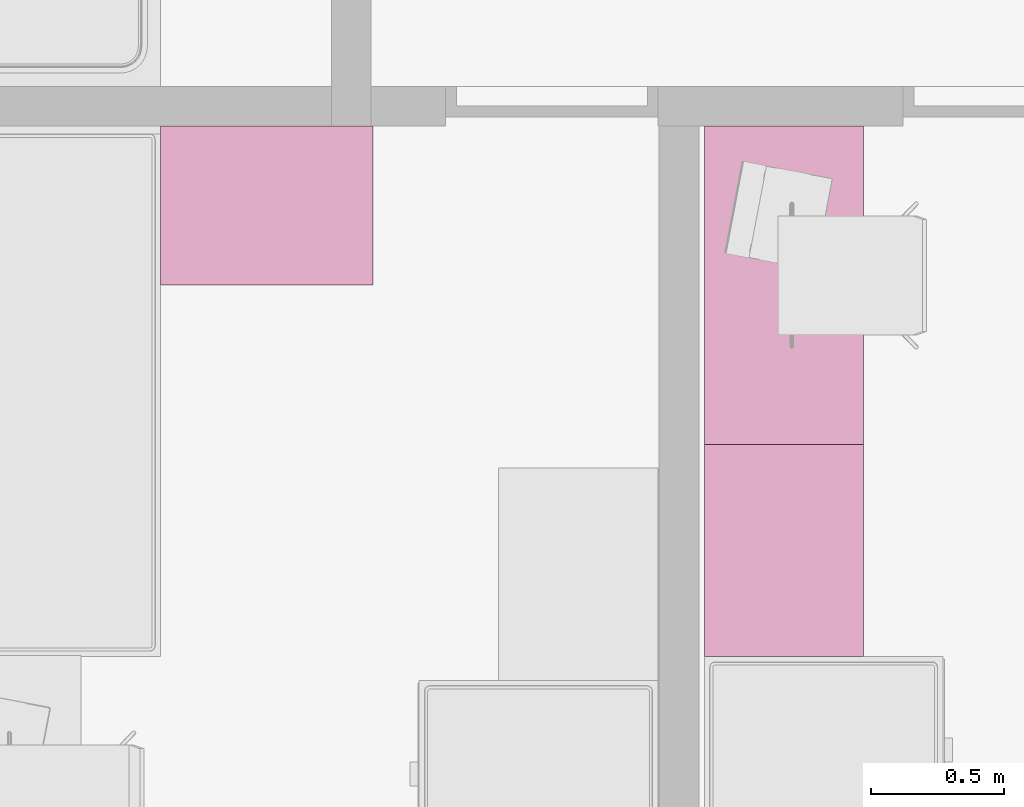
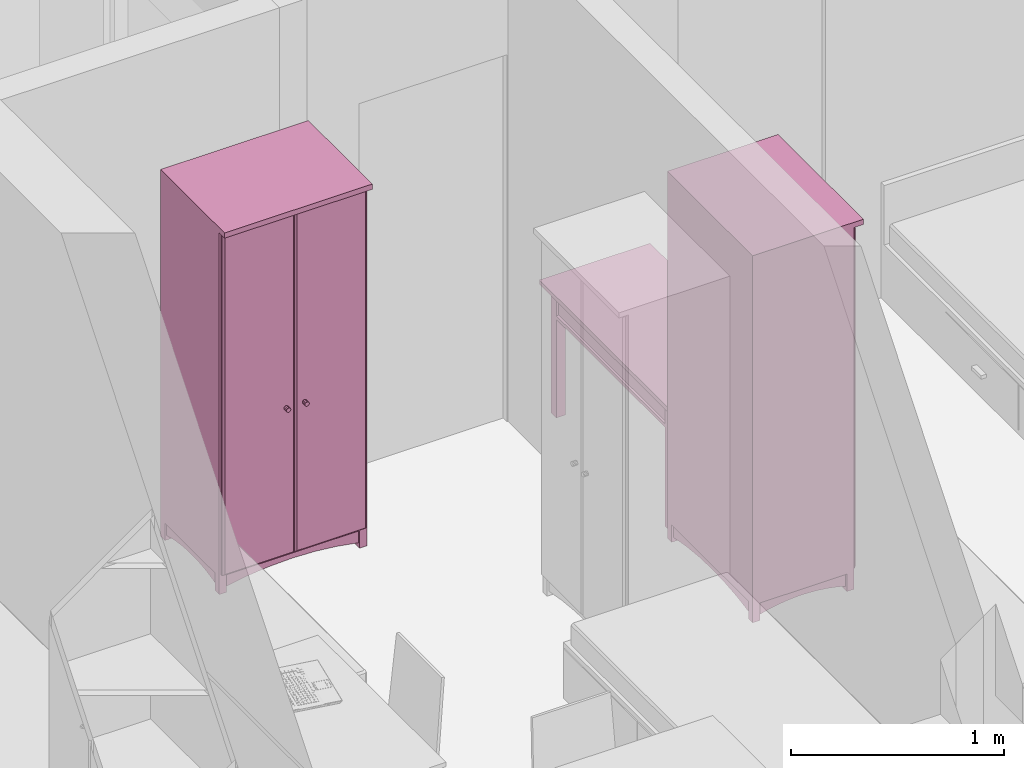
# One storey, part 126 of 165: 3 furnishings.
"""IFC2X3 building model written with IfcOpenShell, lengths in millimetres."""

import ifcopenshell
import ifcopenshell.guid

model = None  # the IFC model being written
_history = None  # IfcOwnerHistory: only IFC2X3 demands one
_inside = {}  # id of a spatial element -> (the spatial element, [elements in it])
_under = {}  # id of a project, library or spatial element -> (it, [spatial elements below it])
_declared = {}  # id of a project -> (the project, [libraries it declares])
_typed = {}  # id of a type object -> (the type object, [elements of that type])
_made_of = {}  # id of a material, layer set ... -> (it, [elements and type objects made of it])


def new_model(schema):
    """Start an empty IFC model of exactly this schema.

    Asked for "IFC4X3", IfcOpenShell would pick the latest addendum, in which some entities
    have other attributes; the version numbers below select the first issue.
    IFC2X3 requires an IfcOwnerHistory on every rooted entity: one is made here for all.
    """
    global model, _history
    if schema == "IFC4X3":
        model = ifcopenshell.file(schema_version=(4, 3, 0, 0))
    else:
        model = ifcopenshell.file(schema=schema)
    _inside.clear()
    _under.clear()
    _declared.clear()
    _typed.clear()
    _made_of.clear()
    _history = None
    if model.schema == "IFC2X3":
        org = make("IfcOrganization", Name="unknown")
        user = make(
            "IfcPersonAndOrganization",
            ThePerson=make("IfcPerson", FamilyName="unknown"),
            TheOrganization=org,
        )
        app = make(
            "IfcApplication",
            ApplicationDeveloper=org,
            Version="unknown",
            ApplicationFullName="unknown",
            ApplicationIdentifier="unknown",
        )
        _history = make(
            "IfcOwnerHistory",
            OwningUser=user,
            OwningApplication=app,
            ChangeAction="ADDED",
            CreationDate=0,
        )
    return model


def make(cls, **values):
    """One entity of the class cls with the attributes given. An attribute that is None is left unset."""
    return model.create_entity(
        cls, **{name: value for name, value in values.items() if value is not None}
    )


def entity(cls, *values):
    """Any entity or typed value of the class cls, its attributes in the order of the schema. None: left unset."""
    e = model.create_entity(cls)
    for i, value in enumerate(values):
        if value is not None:
            e[i] = value
    return e


def rooted(cls, **values):
    """An entity with a GlobalId (a new one), such as an element, a storey or a relation."""
    return make(cls, GlobalId=ifcopenshell.guid.new(), OwnerHistory=_history, **values)


def si_unit(unit_type, name, prefix=None):
    """IfcSIUnit, for example si_unit("LENGTHUNIT", "METRE", prefix="MILLI")."""
    return make("IfcSIUnit", UnitType=unit_type, Prefix=prefix, Name=name)


def converted_unit(unit_type, name, factor, base, dimensions=None, offset=None):
    """IfcConversionBasedUnit, such as the inch: factor (a typed value) times the base unit."""
    return make(
        "IfcConversionBasedUnit"
        if offset is None
        else "IfcConversionBasedUnitWithOffset",
        ConversionOffset=offset,
        Dimensions=None
        if dimensions is None
        else entity("IfcDimensionalExponents", *dimensions),
        UnitType=unit_type,
        Name=name,
        ConversionFactor=make(
            "IfcMeasureWithUnit", ValueComponent=factor, UnitComponent=base
        ),
    )


def money_unit(currency):
    """IfcMonetaryUnit."""
    return make("IfcMonetaryUnit", Currency=currency)


def assignment(units):
    """IfcUnitAssignment: the units of a project."""
    return None if units is None else make("IfcUnitAssignment", Units=units)


def point(xyz):
    """IfcCartesianPoint."""
    return None if xyz is None else make("IfcCartesianPoint", Coordinates=xyz)


def direction(xyz):
    """IfcDirection."""
    return None if xyz is None else make("IfcDirection", DirectionRatios=xyz)


def frame(location, z_axis=None, x_axis=None):
    """IfcAxis2Placement3D, a coordinate frame: its origin and axes. An axis left out is left unset."""
    return make(
        "IfcAxis2Placement3D",
        Location=point(location),
        Axis=direction(z_axis),
        RefDirection=direction(x_axis),
    )


def origin_with_axes():
    """The frame at (0, 0, 0) with the z axis (0, 0, 1) and the x axis (1, 0, 0) written out."""
    return frame((0.0, 0.0, 0.0), z_axis=(0.0, 0.0, 1.0), x_axis=(1.0, 0.0, 0.0))


def place(relative_to, where):
    """IfcLocalPlacement: puts the frame where relative to a parent placement (None: the world)."""
    return make(
        "IfcLocalPlacement", PlacementRelTo=relative_to, RelativePlacement=where
    )


def context(
    kind, dimensions, precision=None, world=None, true_north=None, identifier=None
):
    """IfcGeometricRepresentationContext, for example the 3D "Model" context."""
    return make(
        "IfcGeometricRepresentationContext",
        ContextIdentifier=identifier,
        ContextType=kind,
        CoordinateSpaceDimension=dimensions,
        Precision=precision,
        WorldCoordinateSystem=world,
        TrueNorth=true_north,
    )


def subcontext(parent, identifier, kind, view, scale=None):
    """IfcGeometricRepresentationSubContext, for example "Body" below "Model"."""
    return make(
        "IfcGeometricRepresentationSubContext",
        ContextIdentifier=identifier,
        ContextType=kind,
        ParentContext=parent,
        TargetScale=scale,
        TargetView=view,
    )


def project(units=None, contexts=None):
    """IfcProject with its units and contexts."""
    return rooted(
        "IfcProject",
        Name="project",
        RepresentationContexts=contexts,
        UnitsInContext=assignment(units),
    )


def spatial(cls, under=None, at=None, **own):
    """A site, building, storey or space (cls), placed at a placement, below another one or the project."""
    s = rooted(cls, ObjectPlacement=at, **own)
    if under is not None:
        _under.setdefault(under.id(), (under, []))[1].append(s)
    return s


def faces_of(points, faces, orient=None, outer=None):
    """IfcFace entities. A face is a list of loops; a loop is a list of indices into points, from 0.

    orient and outer hold one flag for each loop. By default every Orientation is true, the
    first loop of a face is its IfcFaceOuterBound and the others are IfcFaceBound.
    """
    made = []
    for i, loops in enumerate(faces):
        bounds = []
        for j, loop in enumerate(loops):
            is_outer = j == 0 if outer is None else outer[i][j]
            bounds.append(
                make(
                    "IfcFaceOuterBound" if is_outer else "IfcFaceBound",
                    Bound=make("IfcPolyLoop", Polygon=[points[k] for k in loop]),
                    Orientation=True if orient is None else orient[i][j],
                )
            )
        made.append(make("IfcFace", Bounds=bounds))
    return made


def faceted_brep(points, faces, orient=None, outer=None, voids=None):
    """IfcFacetedBrep: a solid bounded by flat faces; with voids (closed shells), ...WithVoids."""
    shared = [point(p) for p in points]
    hull = make("IfcClosedShell", CfsFaces=faces_of(shared, faces, orient, outer))
    if voids is None:
        return make("IfcFacetedBrep", Outer=hull)
    return make(
        "IfcFacetedBrepWithVoids",
        Outer=hull,
        Voids=[
            make(cls, CfsFaces=faces_of(shared, fs, o, b)) for cls, fs, o, b in voids
        ],
    )


def shape(context_of_items, identifier, shape_type, items):
    """IfcShapeRepresentation: the items that make up one representation, for example the "Body"."""
    return make(
        "IfcShapeRepresentation",
        ContextOfItems=context_of_items,
        RepresentationIdentifier=identifier,
        RepresentationType=shape_type,
        Items=items,
    )


def source(mapping_origin, context_of_items, identifier, shape_type, items):
    """IfcRepresentationMap: a shape defined once, which mapped items show again and again."""
    return make(
        "IfcRepresentationMap",
        MappingOrigin=mapping_origin,
        MappedRepresentation=shape(context_of_items, identifier, shape_type, items),
    )


def transform(
    local_origin,
    x_axis=None,
    y_axis=None,
    z_axis=None,
    scale=None,
    scale2=None,
    scale3=None,
    uniform=True,
):
    """IfcCartesianTransformationOperator3D, or its non-uniform kind. x_axis, y_axis, z_axis: its Axis1, 2, 3."""
    if uniform:
        return make(
            "IfcCartesianTransformationOperator3D",
            Axis1=direction(x_axis),
            Axis2=direction(y_axis),
            LocalOrigin=point(local_origin),
            Scale=scale,
            Axis3=direction(z_axis),
        )
    return make(
        "IfcCartesianTransformationOperator3DnonUniform",
        Axis1=direction(x_axis),
        Axis2=direction(y_axis),
        LocalOrigin=point(local_origin),
        Scale=scale,
        Axis3=direction(z_axis),
        Scale2=scale2,
        Scale3=scale3,
    )


def mapped(mapping_source, mapping_target):
    """IfcMappedItem: shows the shape of a source again, moved by a transform."""
    return make(
        "IfcMappedItem", MappingSource=mapping_source, MappingTarget=mapping_target
    )


def material(Name=None, Category=None):
    """IfcMaterial."""
    return make("IfcMaterial", Name=Name, Category=Category)


def material_list(materials):
    """IfcMaterialList."""
    return make("IfcMaterialList", Materials=materials)


def made_of(thing, what):
    """Note that an element or type object is made of a material, layer set ...; save() writes the relation."""
    if what is not None:
        _made_of.setdefault(what.id(), (what, []))[1].append(thing)
    return thing


def type_object(cls, material=None, **own):
    """A type object (cls), such as IfcWallType, which elements share."""
    return made_of(rooted(cls, **own), material)


def element(
    cls,
    number,
    at=None,
    inside=None,
    cuts=None,
    type_object=None,
    material=None,
    context=None,
    identifier="Body",
    shape_type=None,
    held_by="IfcProductDefinitionShape",
    body=None,
    shapes=None,
    **own,
):
    """One element of the class cls, such as IfcWall. Its Tag is "e" and its number.

    at: its placement. inside: the storey or other place that contains it. cuts: it is an
    opening in that element (IfcRelVoidsElement). A single representation is given by context,
    identifier, shape_type and body (its items); several are given by shapes. held_by: the class
    of the entity that holds the representations. save() writes the other relations.
    """
    e = rooted(cls, Tag="e%d" % number, ObjectPlacement=at, **own)
    if body is not None:
        shapes = [shape(context, identifier, shape_type, body)]
    if shapes is not None:
        e.Representation = make(held_by, Representations=shapes)
    if inside is not None:
        _inside.setdefault(inside.id(), (inside, []))[1].append(e)
    if cuts is not None:
        rooted(
            "IfcRelVoidsElement", RelatingBuildingElement=cuts, RelatedOpeningElement=e
        )
    if type_object is not None:
        _typed.setdefault(type_object.id(), (type_object, []))[1].append(e)
    return made_of(e, material)


def aggregate(whole, parts):
    """IfcRelAggregates: a whole, such as a stair, and the parts it consists of."""
    return rooted("IfcRelAggregates", RelatingObject=whole, RelatedObjects=parts)


def save(model, path):
    """Write the relations noted so far, then the file.

    IfcRelAggregates (storeys below a building ...), IfcRelContainedInSpatialStructure (elements
    in a storey), IfcRelDefinesByType, IfcRelAssociatesMaterial and IfcRelDeclares: one each for
    every whole, place, type object, material and project.
    """
    for whole, parts in _under.values():
        aggregate(whole, parts)
    for where, things in _inside.values():
        rooted(
            "IfcRelContainedInSpatialStructure",
            RelatedElements=things,
            RelatingStructure=where,
        )
    for kind, things in _typed.values():
        rooted("IfcRelDefinesByType", RelatedObjects=things, RelatingType=kind)
    for what, things in _made_of.values():
        rooted("IfcRelAssociatesMaterial", RelatedObjects=things, RelatingMaterial=what)
    for by, libraries in _declared.values():
        rooted("IfcRelDeclares", RelatingContext=by, RelatedDefinitions=libraries)
    model.write(path)


model = new_model("IFC2X3")

# Units and contexts
model_context = context("Model", 3, precision=1e-05, world=origin_with_axes(), true_north=direction((0.0, 1.0)))
body_context = subcontext(model_context, "Body", "Model", "MODEL_VIEW")
ifc_project = project(units=[si_unit("LENGTHUNIT", "METRE", prefix="MILLI"), si_unit("AREAUNIT", "SQUARE_METRE"), si_unit("VOLUMEUNIT", "CUBIC_METRE"), converted_unit("PLANEANGLEUNIT", "DEGREE", entity("IfcPlaneAngleMeasure", 0.0174532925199), si_unit("PLANEANGLEUNIT", "RADIAN"), dimensions=[0, 0, 0, 0, 0, 0, 0]), si_unit("SOLIDANGLEUNIT", "STERADIAN"), money_unit("USD"), converted_unit("TIMEUNIT", "Year", entity("IfcTimeMeasure", 31556926.0), si_unit("TIMEUNIT", "SECOND"), dimensions=[0, 0, 0, 0, 0, 0, 0]), si_unit("MASSUNIT", "GRAM"), si_unit("THERMODYNAMICTEMPERATUREUNIT", "DEGREE_CELSIUS"), si_unit("LUMINOUSINTENSITYUNIT", "LUMEN")], contexts=[model_context])

# Site, building, storey
site_placement = place(None, origin_with_axes())
site = spatial("IfcSite", under=ifc_project, at=site_placement, Name="Site", CompositionType="ELEMENT")
building_placement = place(site_placement, origin_with_axes())
building = spatial("IfcBuilding", under=site, at=building_placement, Name="Building", CompositionType="ELEMENT")
storey_placement = place(building_placement, frame((0.0, 0.0, 6300.0), z_axis=(0.0, 0.0, 1.0), x_axis=(1.0, 0.0, 0.0)))
storey = spatial("IfcBuildingStorey", under=building, at=storey_placement, Name="4KORRUS", CompositionType="ELEMENT", Elevation=6300.0)

# Furnishings
ifc_material = material(Name="Background")
ifc_material_list = material_list([ifc_material])
furnishing_element_type_1 = type_object("IfcFurnishingElementType", Name="Cupboard 19")
shared_shape_1 = source(origin_with_axes(), body_context, "Body", "Brep", [
    faceted_brep([(-780.0, 600.0, 120.0), (-780.0, 580.0, 120.0), (-780.0, 580.0, 2050.0), (-780.0, 600.0, 2050.0), (-20.0, 600.0, 120.0), (-20.0, 580.0, 120.0), (-20.0, 580.0, 2050.0), (-20.0, 600.0, 2050.0)], [[[0, 1, 2, 3]], [[0, 4, 5, 1]], [[1, 5, 6, 2]], [[3, 2, 6, 7]], [[4, 0, 3, 7]], [[5, 4, 7, 6]]]),
    faceted_brep([(0.0, 50.0, 100.0), (-20.0, 50.0, 100.0), (-20.0, 600.0, 100.0), (0.0, 600.0, 100.0), (0.0, 50.0, 2070.0), (-20.0, 50.0, 2070.0), (-20.0, 600.0, 2070.0), (0.0, 600.0, 2070.0)], [[[0, 1, 2, 3]], [[1, 0, 4, 5]], [[2, 1, 5, 6]], [[3, 2, 6, 7]], [[0, 3, 7, 4]], [[5, 4, 7, 6]]]),
    faceted_brep([(-780.0, 50.0, 100.0), (-800.0, 50.0, 100.0), (-800.0, 600.0, 100.0), (-780.0, 600.0, 100.0), (-780.0, 50.0, 2070.0), (-800.0, 50.0, 2070.0), (-800.0, 600.0, 2070.0), (-780.0, 600.0, 2070.0)], [[[0, 1, 2, 3]], [[1, 0, 4, 5]], [[2, 1, 5, 6]], [[3, 2, 6, 7]], [[0, 3, 7, 4]], [[5, 4, 7, 6]]]),
    faceted_brep([(-20.0, 50.0, 100.0), (-780.0, 50.0, 100.0), (-780.0, 600.0, 100.0), (-20.0, 600.0, 100.0), (-20.0, 50.0, 120.0), (-780.0, 50.0, 120.0), (-780.0, 600.0, 120.0), (-20.0, 600.0, 120.0)], [[[0, 1, 2, 3]], [[1, 0, 4, 5]], [[2, 1, 5, 6]], [[3, 2, 6, 7]], [[0, 3, 7, 4]], [[5, 4, 7, 6]]]),
    faceted_brep([(-20.0, 50.0, 2050.0), (-780.0, 50.0, 2050.0), (-780.0, 600.0, 2050.0), (-20.0, 600.0, 2050.0), (-20.0, 50.0, 2070.0), (-780.0, 50.0, 2070.0), (-780.0, 600.0, 2070.0), (-20.0, 600.0, 2070.0)], [[[0, 1, 2, 3]], [[1, 0, 4, 5]], [[2, 1, 5, 6]], [[3, 2, 6, 7]], [[0, 3, 7, 4]], [[5, 4, 7, 6]]]),
    faceted_brep([(0.0, 600.0, 2070.0), (0.0, 600.0, 2100.0), (0.0, 0.0, 2100.0), (0.0, 0.0, 2070.0), (-800.0, 600.0, 2070.0), (-800.0, 600.0, 2100.0), (-800.0, 0.0, 2100.0), (-800.0, 0.0, 2070.0)], [[[0, 1, 2, 3]], [[4, 5, 1, 0]], [[1, 5, 6, 2]], [[3, 2, 6, 7]], [[0, 3, 7, 4]], [[7, 6, 5, 4]]]),
    faceted_brep([(-760.0, 590.0, 25.0), (-640.962, 590.0, 45.8), (-640.962, 570.0, 45.8), (-760.0, 570.0, 25.0), (-760.0, 590.0, 100.0), (-40.0, 590.0, 100.0), (-40.0, 590.0, 25.0), (-159.038, 590.0, 45.8), (-279.23, 590.0, 58.32), (-400.0, 590.0, 62.5), (-520.77, 590.0, 58.32), (-520.77, 570.0, 58.32), (-400.0, 570.0, 62.5), (-279.23, 570.0, 58.32), (-159.038, 570.0, 45.8), (-40.0, 570.0, 25.0), (-40.0, 570.0, 100.0), (-760.0, 570.0, 100.0)], [[[0, 1, 2, 3]], [[0, 4, 5, 6, 7, 8, 9, 10, 1]], [[1, 10, 11, 2]], [[3, 2, 11, 12, 13, 14, 15, 16, 17]], [[4, 0, 3, 17]], [[5, 4, 17, 16]], [[6, 5, 16, 15]], [[7, 6, 15, 14]], [[8, 7, 14, 13]], [[9, 8, 13, 12]], [[10, 9, 12, 11]]]),
    faceted_brep([(-760.0, 80.0, 25.0), (-640.962, 80.0, 45.8), (-640.962, 60.0, 45.8), (-760.0, 60.0, 25.0), (-760.0, 80.0, 100.0), (-40.0, 80.0, 100.0), (-40.0, 80.0, 25.0), (-159.038, 80.0, 45.8), (-279.23, 80.0, 58.32), (-400.0, 80.0, 62.5), (-520.77, 80.0, 58.32), (-520.77, 60.0, 58.32), (-400.0, 60.0, 62.5), (-279.23, 60.0, 58.32), (-159.038, 60.0, 45.8), (-40.0, 60.0, 25.0), (-40.0, 60.0, 100.0), (-760.0, 60.0, 100.0)], [[[0, 1, 2, 3]], [[0, 4, 5, 6, 7, 8, 9, 10, 1]], [[1, 10, 11, 2]], [[3, 2, 11, 12, 13, 14, 15, 16, 17]], [[4, 0, 3, 17]], [[5, 4, 17, 16]], [[6, 5, 16, 15]], [[7, 6, 15, 14]], [[8, 7, 14, 13]], [[9, 8, 13, 12]], [[10, 9, 12, 11]]]),
    faceted_brep([(-790.0, 90.0, 25.0), (-790.0, 141.266, 38.072), (-770.0, 141.266, 38.072), (-770.0, 90.0, 25.0), (-790.0, 90.0, 100.0), (-790.0, 560.0, 100.0), (-790.0, 560.0, 25.0), (-790.0, 508.734, 38.072), (-790.0, 456.752, 47.92), (-790.0, 404.257, 54.508), (-790.0, 351.453, 57.808), (-790.0, 298.547, 57.808), (-790.0, 245.743, 54.508), (-790.0, 193.248, 47.92), (-770.0, 193.248, 47.92), (-770.0, 245.743, 54.508), (-770.0, 298.547, 57.808), (-770.0, 351.453, 57.808), (-770.0, 404.257, 54.508), (-770.0, 456.752, 47.92), (-770.0, 508.734, 38.072), (-770.0, 560.0, 25.0), (-770.0, 560.0, 100.0), (-770.0, 90.0, 100.0)], [[[0, 1, 2, 3]], [[0, 4, 5, 6, 7, 8, 9, 10, 11, 12, 13, 1]], [[1, 13, 14, 2]], [[3, 2, 14, 15, 16, 17, 18, 19, 20, 21, 22, 23]], [[4, 0, 3, 23]], [[5, 4, 23, 22]], [[6, 5, 22, 21]], [[7, 6, 21, 20]], [[8, 7, 20, 19]], [[9, 8, 19, 18]], [[10, 9, 18, 17]], [[11, 10, 17, 16]], [[12, 11, 16, 15]], [[13, 12, 15, 14]]]),
    faceted_brep([(-30.0, 90.0, 25.0), (-30.0, 141.266, 38.072), (-10.0, 141.266, 38.072), (-10.0, 90.0, 25.0), (-30.0, 90.0, 100.0), (-30.0, 560.0, 100.0), (-30.0, 560.0, 25.0), (-30.0, 508.734, 38.072), (-30.0, 456.752, 47.92), (-30.0, 404.257, 54.508), (-30.0, 351.453, 57.808), (-30.0, 298.547, 57.808), (-30.0, 245.743, 54.508), (-30.0, 193.248, 47.92), (-10.0, 193.248, 47.92), (-10.0, 245.743, 54.508), (-10.0, 298.547, 57.808), (-10.0, 351.453, 57.808), (-10.0, 404.257, 54.508), (-10.0, 456.752, 47.92), (-10.0, 508.734, 38.072), (-10.0, 560.0, 25.0), (-10.0, 560.0, 100.0), (-10.0, 90.0, 100.0)], [[[0, 1, 2, 3]], [[0, 4, 5, 6, 7, 8, 9, 10, 11, 12, 13, 1]], [[1, 13, 14, 2]], [[3, 2, 14, 15, 16, 17, 18, 19, 20, 21, 22, 23]], [[4, 0, 3, 23]], [[5, 4, 23, 22]], [[6, 5, 22, 21]], [[7, 6, 21, 20]], [[8, 7, 20, 19]], [[9, 8, 19, 18]], [[10, 9, 18, 17]], [[11, 10, 17, 16]], [[12, 11, 16, 15]], [[13, 12, 15, 14]]]),
    faceted_brep([(-760.0, 560.0, 0.0), (-760.0, 600.0, 0.0), (-760.0, 600.0, 100.0), (-760.0, 560.0, 100.0), (-800.0, 560.0, 0.0), (-800.0, 600.0, 0.0), (-800.0, 600.0, 100.0), (-800.0, 560.0, 100.0)], [[[0, 1, 2, 3]], [[0, 4, 5, 1]], [[1, 5, 6, 2]], [[3, 2, 6, 7]], [[4, 0, 3, 7]], [[5, 4, 7, 6]]]),
    faceted_brep([(0.0, 560.0, 0.0), (0.0, 600.0, 0.0), (0.0, 600.0, 100.0), (0.0, 560.0, 100.0), (-40.0, 560.0, 0.0), (-40.0, 600.0, 0.0), (-40.0, 600.0, 100.0), (-40.0, 560.0, 100.0)], [[[0, 1, 2, 3]], [[0, 4, 5, 1]], [[1, 5, 6, 2]], [[3, 2, 6, 7]], [[4, 0, 3, 7]], [[5, 4, 7, 6]]]),
    faceted_brep([(-760.0, 50.0, 0.0), (-760.0, 90.0, 0.0), (-760.0, 90.0, 100.0), (-760.0, 50.0, 100.0), (-800.0, 50.0, 0.0), (-800.0, 90.0, 0.0), (-800.0, 90.0, 100.0), (-800.0, 50.0, 100.0)], [[[0, 1, 2, 3]], [[0, 4, 5, 1]], [[1, 5, 6, 2]], [[3, 2, 6, 7]], [[4, 0, 3, 7]], [[5, 4, 7, 6]]]),
    faceted_brep([(0.0, 50.0, 0.0), (0.0, 90.0, 0.0), (0.0, 90.0, 100.0), (0.0, 50.0, 100.0), (-40.0, 50.0, 0.0), (-40.0, 90.0, 0.0), (-40.0, 90.0, 100.0), (-40.0, 50.0, 100.0)], [[[0, 1, 2, 3]], [[0, 4, 5, 1]], [[1, 5, 6, 2]], [[3, 2, 6, 7]], [[4, 0, 3, 7]], [[5, 4, 7, 6]]]),
    faceted_brep([(-780.0, 580.0, 587.5), (-780.0, 50.0, 587.5), (-780.0, 50.0, 607.5), (-780.0, 580.0, 607.5), (-20.0, 580.0, 587.5), (-20.0, 50.0, 587.5), (-20.0, 50.0, 607.5), (-20.0, 580.0, 607.5)], [[[0, 1, 2, 3]], [[0, 4, 5, 1]], [[1, 5, 6, 2]], [[3, 2, 6, 7]], [[4, 0, 3, 7]], [[5, 4, 7, 6]]]),
    faceted_brep([(-780.0, 580.0, 1075.0), (-780.0, 50.0, 1075.0), (-780.0, 50.0, 1095.0), (-780.0, 580.0, 1095.0), (-20.0, 580.0, 1075.0), (-20.0, 50.0, 1075.0), (-20.0, 50.0, 1095.0), (-20.0, 580.0, 1095.0)], [[[0, 1, 2, 3]], [[0, 4, 5, 1]], [[1, 5, 6, 2]], [[3, 2, 6, 7]], [[4, 0, 3, 7]], [[5, 4, 7, 6]]]),
    faceted_brep([(-780.0, 580.0, 1562.5), (-780.0, 50.0, 1562.5), (-780.0, 50.0, 1582.5), (-780.0, 580.0, 1582.5), (-20.0, 580.0, 1562.5), (-20.0, 50.0, 1562.5), (-20.0, 50.0, 1582.5), (-20.0, 580.0, 1582.5)], [[[0, 1, 2, 3]], [[0, 4, 5, 1]], [[1, 5, 6, 2]], [[3, 2, 6, 7]], [[4, 0, 3, 7]], [[5, 4, 7, 6]]]),
    faceted_brep([(-789.5, 50.0, 110.5), (-789.5, 50.0, 2059.5), (-400.5, 50.0, 2059.5), (-400.5, 50.0, 110.5), (-789.5, 40.0, 110.5), (-789.5, 40.0, 2059.5), (-400.5, 40.0, 2059.5), (-400.5, 40.0, 110.5), (-779.5, 30.0, 120.5), (-779.5, 30.0, 2049.5), (-410.5, 30.0, 2049.5), (-410.5, 30.0, 120.5)], [[[0, 1, 2, 3]], [[1, 0, 4, 5]], [[2, 1, 5, 6]], [[3, 2, 6, 7]], [[0, 3, 7, 4]], [[5, 4, 8, 9]], [[6, 5, 9, 10]], [[7, 6, 10, 11]], [[4, 7, 11, 8]], [[10, 9, 8, 11]]]),
    faceted_brep([(-399.5, 50.0, 110.5), (-399.5, 50.0, 2059.5), (-10.5, 50.0, 2059.5), (-10.5, 50.0, 110.5), (-399.5, 40.0, 110.5), (-399.5, 40.0, 2059.5), (-10.5, 40.0, 2059.5), (-10.5, 40.0, 110.5), (-389.5, 30.0, 120.5), (-389.5, 30.0, 2049.5), (-20.5, 30.0, 2049.5), (-20.5, 30.0, 120.5)], [[[0, 1, 2, 3]], [[1, 0, 4, 5]], [[2, 1, 5, 6]], [[3, 2, 6, 7]], [[0, 3, 7, 4]], [[5, 4, 8, 9]], [[6, 5, 9, 10]], [[7, 6, 10, 11]], [[4, 7, 11, 8]], [[10, 9, 8, 11]]]),
    faceted_brep([(-339.608, 30.0, 954.0), (-344.0, 30.0, 949.608), (-350.0, 30.0, 948.0), (-356.0, 30.0, 949.608), (-360.392, 30.0, 954.0), (-362.0, 30.0, 960.0), (-360.392, 30.0, 966.0), (-356.0, 30.0, 970.392), (-350.0, 30.0, 972.0), (-344.0, 30.0, 970.392), (-339.608, 30.0, 966.0), (-338.0, 30.0, 960.0), (-339.608, 5.0, 954.0), (-344.0, 5.0, 949.608), (-350.0, 5.0, 948.0), (-356.0, 5.0, 949.608), (-360.392, 5.0, 954.0), (-362.0, 5.0, 960.0), (-360.392, 5.0, 966.0), (-356.0, 5.0, 970.392), (-350.0, 5.0, 972.0), (-344.0, 5.0, 970.392), (-339.608, 5.0, 966.0), (-338.0, 5.0, 960.0)], [[[0, 1, 2, 3, 4, 5, 6, 7, 8, 9, 10, 11]], [[1, 0, 12, 13]], [[2, 1, 13, 14]], [[3, 2, 14, 15]], [[4, 3, 15, 16]], [[5, 4, 16, 17]], [[6, 5, 17, 18]], [[7, 6, 18, 19]], [[8, 7, 19, 20]], [[9, 8, 20, 21]], [[10, 9, 21, 22]], [[11, 10, 22, 23]], [[0, 11, 23, 12]], [[12, 23, 22, 21, 20, 19, 18, 17, 16, 15, 14, 13]]]),
    faceted_brep([(-460.392, 30.0, 954.0), (-462.0, 30.0, 960.0), (-460.392, 30.0, 966.0), (-456.0, 30.0, 970.392), (-450.0, 30.0, 972.0), (-444.0, 30.0, 970.392), (-439.608, 30.0, 966.0), (-438.0, 30.0, 960.0), (-439.608, 30.0, 954.0), (-444.0, 30.0, 949.608), (-450.0, 30.0, 948.0), (-456.0, 30.0, 949.608), (-460.392, 5.0, 954.0), (-462.0, 5.0, 960.0), (-460.392, 5.0, 966.0), (-456.0, 5.0, 970.392), (-450.0, 5.0, 972.0), (-444.0, 5.0, 970.392), (-439.608, 5.0, 966.0), (-438.0, 5.0, 960.0), (-439.608, 5.0, 954.0), (-444.0, 5.0, 949.608), (-450.0, 5.0, 948.0), (-456.0, 5.0, 949.608)], [[[0, 1, 2, 3, 4, 5, 6, 7, 8, 9, 10, 11]], [[0, 12, 13, 1]], [[1, 13, 14, 2]], [[2, 14, 15, 3]], [[3, 15, 16, 4]], [[4, 16, 17, 5]], [[5, 17, 18, 6]], [[6, 18, 19, 7]], [[7, 19, 20, 8]], [[8, 20, 21, 9]], [[9, 21, 22, 10]], [[10, 22, 23, 11]], [[11, 23, 12, 0]], [[12, 23, 22, 21, 20, 19, 18, 17, 16, 15, 14, 13]]]),
])
for number, where, z_axis, x_axis, name in (
    (1, (9559.70329669, -16639.2398994, 0.0), (0.0, 0.0, 1.0), (0.0, 1.0, 0.0), "FU - 014"),
    (2, (7709.70329669, -16039.2398994, 0.0), (0.0, 0.0, 1.0), (1.0, 0.0, 0.0), "FU - 014"),
):
    element("IfcFurnishingElement", number, at=place(storey_placement, frame(where, z_axis=z_axis, x_axis=x_axis)), inside=storey, type_object=furnishing_element_type_1, material=ifc_material_list, Name=name, context=body_context, shape_type="MappedRepresentation", body=[
        mapped(shared_shape_1, transform((0.0, 0.0, 0.0))),
    ])
furnishing_element_type_2 = type_object("IfcFurnishingElementType", Name="Rectangular Table 01 19")
shared_shape_2 = source(origin_with_axes(), body_context, "Body", "Brep", [
    faceted_brep([(-90.0, 40.0, 0.0), (-90.0, 90.0, 0.0), (-40.0, 90.0, 0.0), (-40.0, 40.0, 0.0), (-90.0, 40.0, 725.0), (-90.0, 90.0, 725.0), (-40.0, 90.0, 725.0), (-40.0, 40.0, 725.0)], [[[0, 1, 2, 3]], [[0, 4, 5, 1]], [[1, 5, 6, 2]], [[2, 6, 7, 3]], [[3, 7, 4, 0]], [[7, 6, 5, 4]]]),
    faceted_brep([(-1160.0, 40.0, 0.0), (-1160.0, 90.0, 0.0), (-1110.0, 90.0, 0.0), (-1110.0, 40.0, 0.0), (-1160.0, 40.0, 725.0), (-1160.0, 90.0, 725.0), (-1110.0, 90.0, 725.0), (-1110.0, 40.0, 725.0)], [[[0, 1, 2, 3]], [[0, 4, 5, 1]], [[1, 5, 6, 2]], [[2, 6, 7, 3]], [[3, 7, 4, 0]], [[7, 6, 5, 4]]]),
    faceted_brep([(-90.0, 510.0, 0.0), (-90.0, 560.0, 0.0), (-40.0, 560.0, 0.0), (-40.0, 510.0, 0.0), (-90.0, 510.0, 725.0), (-90.0, 560.0, 725.0), (-40.0, 560.0, 725.0), (-40.0, 510.0, 725.0)], [[[0, 1, 2, 3]], [[0, 4, 5, 1]], [[1, 5, 6, 2]], [[2, 6, 7, 3]], [[3, 7, 4, 0]], [[7, 6, 5, 4]]]),
    faceted_brep([(-1160.0, 510.0, 0.0), (-1160.0, 560.0, 0.0), (-1110.0, 560.0, 0.0), (-1110.0, 510.0, 0.0), (-1160.0, 510.0, 725.0), (-1160.0, 560.0, 725.0), (-1110.0, 560.0, 725.0), (-1110.0, 510.0, 725.0)], [[[0, 1, 2, 3]], [[0, 4, 5, 1]], [[1, 5, 6, 2]], [[2, 6, 7, 3]], [[3, 7, 4, 0]], [[7, 6, 5, 4]]]),
    faceted_brep([(-1160.0, 40.0, 565.0), (-1160.0, 560.0, 565.0), (-40.0, 560.0, 565.0), (-40.0, 40.0, 565.0), (-1160.0, 40.0, 585.0), (-1160.0, 560.0, 585.0), (-40.0, 560.0, 585.0), (-40.0, 40.0, 585.0)], [[[0, 1, 2, 3]], [[0, 4, 5, 1]], [[1, 5, 6, 2]], [[2, 6, 7, 3]], [[3, 7, 4, 0]], [[7, 6, 5, 4]]]),
    faceted_brep([(-1110.0, 52.5, 585.0), (-1110.0, 77.5, 585.0), (-90.0, 77.5, 585.0), (-90.0, 52.5, 585.0), (-1110.0, 52.5, 745.0), (-1110.0, 77.5, 745.0), (-90.0, 77.5, 745.0), (-90.0, 52.5, 745.0)], [[[0, 1, 2, 3]], [[0, 4, 5, 1]], [[1, 5, 6, 2]], [[2, 6, 7, 3]], [[3, 7, 4, 0]], [[7, 6, 5, 4]]]),
    faceted_brep([(-77.5, 90.0, 585.0), (-77.5, 510.0, 585.0), (-52.5, 510.0, 585.0), (-52.5, 90.0, 585.0), (-77.5, 90.0, 745.0), (-77.5, 510.0, 745.0), (-52.5, 510.0, 745.0), (-52.5, 90.0, 745.0)], [[[0, 1, 2, 3]], [[0, 4, 5, 1]], [[1, 5, 6, 2]], [[2, 6, 7, 3]], [[3, 7, 4, 0]], [[7, 6, 5, 4]]]),
    faceted_brep([(-90.0, 547.5, 585.0), (-90.0, 522.5, 585.0), (-1110.0, 522.5, 585.0), (-1110.0, 547.5, 585.0), (-90.0, 547.5, 745.0), (-90.0, 522.5, 745.0), (-1110.0, 522.5, 745.0), (-1110.0, 547.5, 745.0)], [[[0, 1, 2, 3]], [[0, 4, 5, 1]], [[1, 5, 6, 2]], [[2, 6, 7, 3]], [[3, 7, 4, 0]], [[7, 6, 5, 4]]]),
    faceted_brep([(-1122.5, 510.0, 585.0), (-1122.5, 90.0, 585.0), (-1147.5, 90.0, 585.0), (-1147.5, 510.0, 585.0), (-1122.5, 510.0, 745.0), (-1122.5, 90.0, 745.0), (-1147.5, 90.0, 745.0), (-1147.5, 510.0, 745.0)], [[[0, 1, 2, 3]], [[0, 4, 5, 1]], [[1, 5, 6, 2]], [[2, 6, 7, 3]], [[3, 7, 4, 0]], [[7, 6, 5, 4]]]),
    faceted_brep([(-597.5, 40.0, 585.0), (-597.5, 60.0, 585.0), (-95.0, 60.0, 585.0), (-95.0, 40.0, 585.0), (-597.5, 40.0, 745.0), (-597.5, 60.0, 745.0), (-95.0, 60.0, 745.0), (-95.0, 40.0, 745.0)], [[[0, 1, 2, 3]], [[0, 4, 5, 1]], [[1, 5, 6, 2]], [[2, 6, 7, 3]], [[3, 7, 4, 0]], [[7, 6, 5, 4]]]),
    faceted_brep([(-1105.0, 40.0, 585.0), (-1105.0, 60.0, 585.0), (-602.5, 60.0, 585.0), (-602.5, 40.0, 585.0), (-1105.0, 40.0, 745.0), (-1105.0, 60.0, 745.0), (-602.5, 60.0, 745.0), (-602.5, 40.0, 745.0)], [[[0, 1, 2, 3]], [[0, 4, 5, 1]], [[1, 5, 6, 2]], [[2, 6, 7, 3]], [[3, 7, 4, 0]], [[7, 6, 5, 4]]]),
    faceted_brep([(-354.91, 40.0, 660.0), (-356.25, 40.0, 665.0), (-354.91, 40.0, 670.0), (-351.25, 40.0, 673.66), (-346.25, 40.0, 675.0), (-341.25, 40.0, 673.66), (-337.59, 40.0, 670.0), (-336.25, 40.0, 665.0), (-337.59, 40.0, 660.0), (-341.25, 40.0, 656.34), (-346.25, 40.0, 655.0), (-351.25, 40.0, 656.34), (-354.91, 25.0, 660.0), (-356.25, 25.0, 665.0), (-354.91, 25.0, 670.0), (-351.25, 25.0, 673.66), (-346.25, 25.0, 675.0), (-341.25, 25.0, 673.66), (-337.59, 25.0, 670.0), (-336.25, 25.0, 665.0), (-337.59, 25.0, 660.0), (-341.25, 25.0, 656.34), (-346.25, 25.0, 655.0), (-351.25, 25.0, 656.34)], [[[0, 1, 2, 3, 4, 5, 6, 7, 8, 9, 10, 11]], [[0, 12, 13, 1]], [[1, 13, 14, 2]], [[2, 14, 15, 3]], [[3, 15, 16, 4]], [[4, 16, 17, 5]], [[5, 17, 18, 6]], [[6, 18, 19, 7]], [[7, 19, 20, 8]], [[8, 20, 21, 9]], [[9, 21, 22, 10]], [[10, 22, 23, 11]], [[11, 23, 12, 0]], [[12, 23, 22, 21, 20, 19, 18, 17, 16, 15, 14, 13]]]),
    faceted_brep([(-356.25, 12.01, 665.0), (-354.91, 12.01, 660.0), (-346.25, 10.0, 665.0), (-363.571, 17.5, 665.0), (-361.25, 17.5, 656.34), (-351.25, 12.01, 656.34), (-354.91, 12.01, 670.0), (-366.25, 25.0, 665.0), (-363.571, 25.0, 655.0), (-354.91, 17.5, 650.0), (-361.25, 17.5, 673.66), (-346.25, 12.01, 655.0), (-351.25, 12.01, 673.66), (-363.571, 25.0, 675.0), (-356.25, 25.0, 682.321), (-346.25, 25.0, 685.0), (-336.25, 25.0, 682.321), (-328.929, 25.0, 675.0), (-326.25, 25.0, 665.0), (-328.929, 25.0, 655.0), (-336.25, 25.0, 647.679), (-346.25, 25.0, 645.0), (-356.25, 25.0, 647.679), (-346.25, 17.5, 647.679), (-354.91, 17.5, 680.0), (-341.25, 12.01, 656.34), (-346.25, 12.01, 675.0), (-346.25, 17.5, 682.321), (-337.59, 17.5, 680.0), (-331.25, 17.5, 673.66), (-328.929, 17.5, 665.0), (-331.25, 17.5, 656.34), (-337.59, 17.5, 650.0), (-337.59, 12.01, 660.0), (-341.25, 12.01, 673.66), (-337.59, 12.01, 670.0), (-336.25, 12.01, 665.0)], [[[0, 1, 2]], [[3, 4, 1, 0]], [[1, 5, 2]], [[6, 0, 2]], [[7, 8, 4, 3]], [[4, 9, 5, 1]], [[10, 3, 0, 6]], [[5, 11, 2]], [[12, 6, 2]], [[8, 7, 13, 14, 15, 16, 17, 18, 19, 20, 21, 22]], [[8, 22, 9, 4]], [[13, 7, 3, 10]], [[9, 23, 11, 5]], [[24, 10, 6, 12]], [[11, 25, 2]], [[26, 12, 2]], [[14, 13, 10, 24]], [[15, 14, 24, 27]], [[16, 15, 27, 28]], [[17, 16, 28, 29]], [[18, 17, 29, 30]], [[19, 18, 30, 31]], [[20, 19, 31, 32]], [[21, 20, 32, 23]], [[22, 21, 23, 9]], [[23, 32, 25, 11]], [[27, 24, 12, 26]], [[25, 33, 2]], [[34, 26, 2]], [[28, 27, 26, 34]], [[29, 28, 34, 35]], [[30, 29, 35, 36]], [[31, 30, 36, 33]], [[32, 31, 33, 25]], [[33, 36, 2]], [[35, 34, 2]], [[36, 35, 2]]]),
    faceted_brep([(-862.41, 40.0, 660.0), (-863.75, 40.0, 665.0), (-862.41, 40.0, 670.0), (-858.75, 40.0, 673.66), (-853.75, 40.0, 675.0), (-848.75, 40.0, 673.66), (-845.09, 40.0, 670.0), (-843.75, 40.0, 665.0), (-845.09, 40.0, 660.0), (-848.75, 40.0, 656.34), (-853.75, 40.0, 655.0), (-858.75, 40.0, 656.34), (-862.41, 25.0, 660.0), (-863.75, 25.0, 665.0), (-862.41, 25.0, 670.0), (-858.75, 25.0, 673.66), (-853.75, 25.0, 675.0), (-848.75, 25.0, 673.66), (-845.09, 25.0, 670.0), (-843.75, 25.0, 665.0), (-845.09, 25.0, 660.0), (-848.75, 25.0, 656.34), (-853.75, 25.0, 655.0), (-858.75, 25.0, 656.34)], [[[0, 1, 2, 3, 4, 5, 6, 7, 8, 9, 10, 11]], [[0, 12, 13, 1]], [[1, 13, 14, 2]], [[2, 14, 15, 3]], [[3, 15, 16, 4]], [[4, 16, 17, 5]], [[5, 17, 18, 6]], [[6, 18, 19, 7]], [[7, 19, 20, 8]], [[8, 20, 21, 9]], [[9, 21, 22, 10]], [[10, 22, 23, 11]], [[11, 23, 12, 0]], [[12, 23, 22, 21, 20, 19, 18, 17, 16, 15, 14, 13]]]),
    faceted_brep([(-863.75, 12.01, 665.0), (-862.41, 12.01, 660.0), (-853.75, 10.0, 665.0), (-871.071, 17.5, 665.0), (-868.75, 17.5, 656.34), (-858.75, 12.01, 656.34), (-862.41, 12.01, 670.0), (-873.75, 25.0, 665.0), (-871.071, 25.0, 655.0), (-862.41, 17.5, 650.0), (-868.75, 17.5, 673.66), (-853.75, 12.01, 655.0), (-858.75, 12.01, 673.66), (-871.071, 25.0, 675.0), (-863.75, 25.0, 682.321), (-853.75, 25.0, 685.0), (-843.75, 25.0, 682.321), (-836.429, 25.0, 675.0), (-833.75, 25.0, 665.0), (-836.429, 25.0, 655.0), (-843.75, 25.0, 647.679), (-853.75, 25.0, 645.0), (-863.75, 25.0, 647.679), (-853.75, 17.5, 647.679), (-862.41, 17.5, 680.0), (-848.75, 12.01, 656.34), (-853.75, 12.01, 675.0), (-853.75, 17.5, 682.321), (-845.09, 17.5, 680.0), (-838.75, 17.5, 673.66), (-836.429, 17.5, 665.0), (-838.75, 17.5, 656.34), (-845.09, 17.5, 650.0), (-845.09, 12.01, 660.0), (-848.75, 12.01, 673.66), (-845.09, 12.01, 670.0), (-843.75, 12.01, 665.0)], [[[0, 1, 2]], [[3, 4, 1, 0]], [[1, 5, 2]], [[6, 0, 2]], [[7, 8, 4, 3]], [[4, 9, 5, 1]], [[10, 3, 0, 6]], [[5, 11, 2]], [[12, 6, 2]], [[8, 7, 13, 14, 15, 16, 17, 18, 19, 20, 21, 22]], [[8, 22, 9, 4]], [[13, 7, 3, 10]], [[9, 23, 11, 5]], [[24, 10, 6, 12]], [[11, 25, 2]], [[26, 12, 2]], [[14, 13, 10, 24]], [[15, 14, 24, 27]], [[16, 15, 27, 28]], [[17, 16, 28, 29]], [[18, 17, 29, 30]], [[19, 18, 30, 31]], [[20, 19, 31, 32]], [[21, 20, 32, 23]], [[22, 21, 23, 9]], [[23, 32, 25, 11]], [[27, 24, 12, 26]], [[25, 33, 2]], [[34, 26, 2]], [[28, 27, 26, 34]], [[29, 28, 34, 35]], [[30, 29, 35, 36]], [[31, 30, 36, 33]], [[32, 31, 33, 25]], [[33, 36, 2]], [[35, 34, 2]], [[36, 35, 2]]]),
    faceted_brep([(-1200.0, 0.0, 725.0), (-1200.0, 600.0, 725.0), (0.0, 600.0, 725.0), (0.0, 0.0, 725.0), (-1200.0, 0.0, 750.0), (-1200.0, 600.0, 750.0), (0.0, 600.0, 750.0), (0.0, 0.0, 750.0)], [[[0, 1, 2, 3]], [[0, 4, 5, 1]], [[1, 5, 6, 2]], [[2, 6, 7, 3]], [[3, 7, 4, 0]], [[7, 6, 5, 4]]]),
])
furnishing_placement = place(storey_placement, frame((9559.70329669, -15439.2398994, 0.0), z_axis=(0.0, 0.0, 1.0), x_axis=(0.0, 1.0, 0.0)))
element("IfcFurnishingElement", 3, at=furnishing_placement, inside=storey, type_object=furnishing_element_type_2, material=ifc_material_list, Name="FU - 011", context=body_context, shape_type="MappedRepresentation", body=[
    mapped(shared_shape_2, transform((0.0, 0.0, 0.0))),
])

save(model, "model.ifc")
